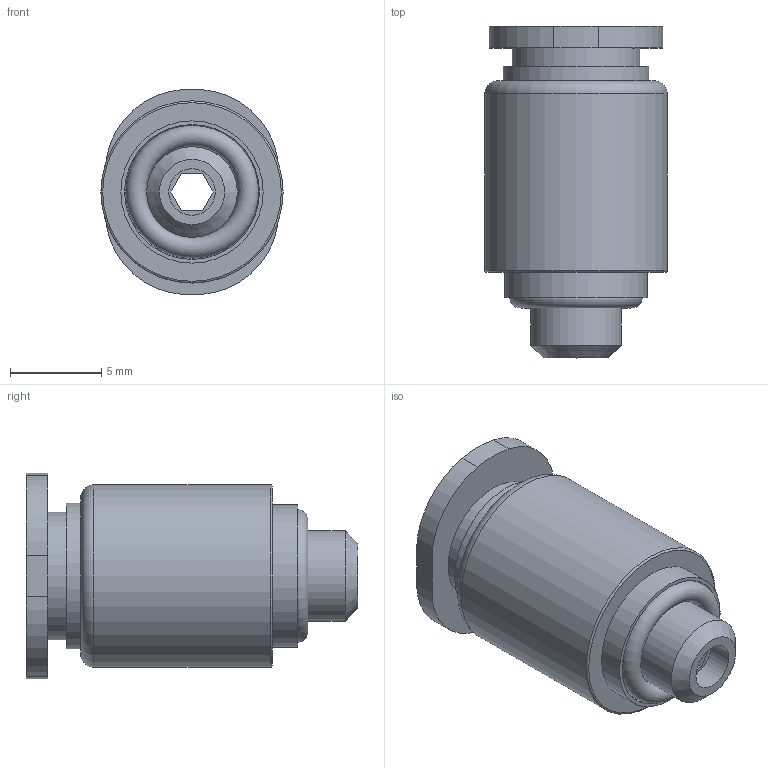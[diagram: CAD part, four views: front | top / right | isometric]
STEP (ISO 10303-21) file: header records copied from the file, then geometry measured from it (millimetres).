
FILE_DESCRIPTION(/* description */ (''),/* implementation_level */ '2;1');
FILE_NAME(/* name */ 'S:\_Tecnico\ArchivioUT\_Disegni3D ingombri\DISEGNI 3D per ingombri\RP\RP 51T-C\RP51TM506C.stp',/* time_stamp */ '2020-02-05T15:05:18+01:00',/* author */ ('UfficioTecnico'),/* organization */ (''),/* preprocessor_version */ 'ST-DEVELOPER v18',/* originating_system */ 'Autodesk Inventor 2020',/* authorisation */ '');
FILE_SCHEMA (('AUTOMOTIVE_DESIGN { 1 0 10303 214 3 1 1 }'));
Length unit declared in the file: millimetre
Products named in the file (1): RP51TM506C
Bounding box: 10 x 18.2 x 11.27 mm (x, y, z)
Volume: 659.7 mm3; surface area: 1106.1 mm2
Topology: 1 solids, 2 shells, 42 faces, 107 edges, 77 vertices
Faces by surface type: plane 20, cylinder 14, torus 4, cone 4
Full cylindrical faces by diameter (mm): 2.55 x1, 4.98 x1, 6 x1, 7 x2, 7.8 x1, 8 x1, 10 x1
Entity records: 1403 total; most frequent: DIRECTION 258, CARTESIAN_POINT 227, ORIENTED_EDGE 214, AXIS2_PLACEMENT_3D 108, EDGE_CURVE 107, VERTEX_POINT 77, CIRCLE 65, EDGE_LOOP 54
